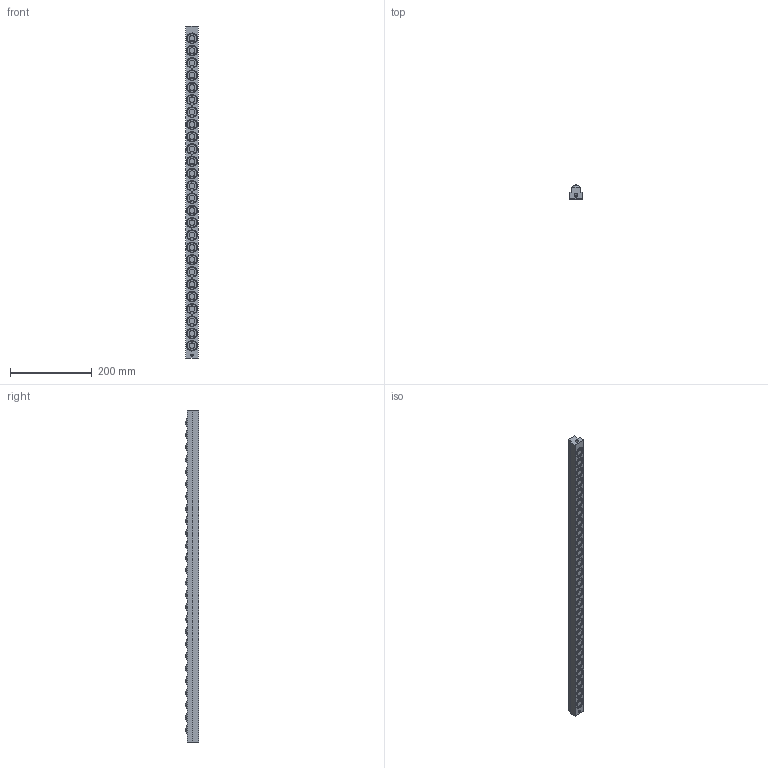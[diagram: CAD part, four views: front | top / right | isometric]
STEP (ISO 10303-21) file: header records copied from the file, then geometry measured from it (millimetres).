
FILE_DESCRIPTION (( 'STEP AP203' ), '1' );
FILE_NAME ('PVL20T-26.STEP', '2016-02-18T07:17:20', ( '' ), ( '' ), 'SwSTEP 2.0', 'SolidWorks 2013', '' );
FILE_SCHEMA (( 'CONFIG_CONTROL_DESIGN' ));
Length unit declared in the file: millimetre
Products named in the file (1): PVL20T-26
Bounding box: 30 x 34 x 810 mm (x, y, z)
Volume: 596926.9 mm3; surface area: 107083.2 mm2
Topology: 1 solids, 1 shells, 750 faces, 1794 edges, 1203 vertices
Faces by surface type: cylinder 422, plane 220, torus 52, sphere 52, cone 4
Entity records: 22517 total; most frequent: DIRECTION 4454, CARTESIAN_POINT 3746, ORIENTED_EDGE 3584, AXIS2_PLACEMENT_3D 1911, EDGE_CURVE 1792, VERTEX_POINT 1203, CIRCLE 1160, EDGE_LOOP 911
